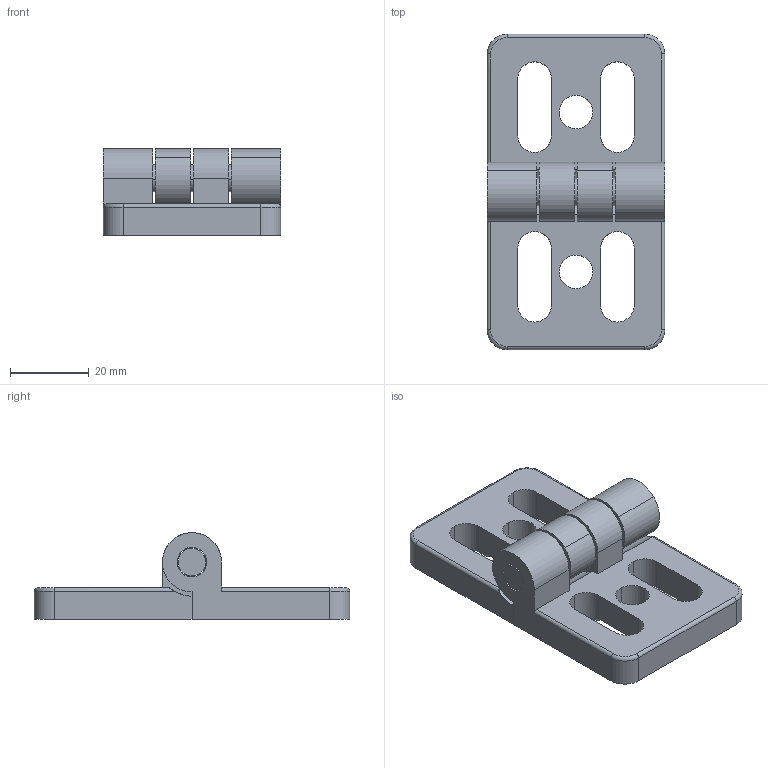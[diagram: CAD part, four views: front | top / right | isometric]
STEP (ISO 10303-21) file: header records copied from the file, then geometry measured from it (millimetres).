
FILE_DESCRIPTION (( 'STEP AP214' ), '1' );
FILE_NAME ('1.4009 Sarana 45 C.STEP', '2025-09-15T07:52:01', ( '' ), ( '' ), 'SwSTEP 2.0', 'SolidWorks 2025', '' );
FILE_SCHEMA (( 'AUTOMOTIVE_DESIGN' ));
Length unit declared in the file: millimetre
Products named in the file (1): 1.4009 Sarana 45 C
Bounding box: 45 x 80 x 21.99 mm (x, y, z)
Volume: 24301.3 mm3; surface area: 17224.2 mm2
Topology: 3 solids, 3 shells, 198 faces, 556 edges, 368 vertices
Faces by surface type: plane 100, cylinder 94, torus 4
Entity records: 6579 total; most frequent: CARTESIAN_POINT 1183, DIRECTION 1158, ORIENTED_EDGE 1112, EDGE_CURVE 556, AXIS2_PLACEMENT_3D 405, VERTEX_POINT 368, VECTOR 348, LINE 348
